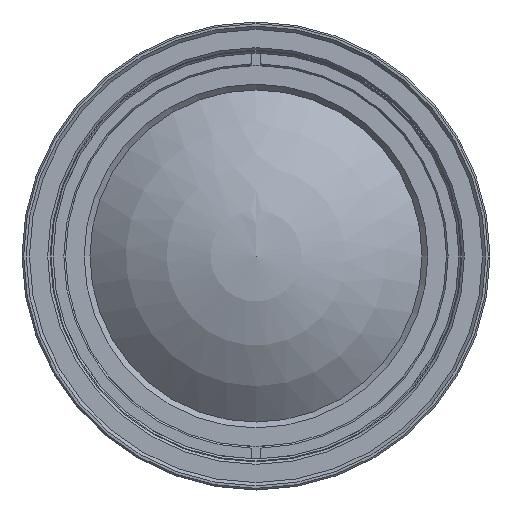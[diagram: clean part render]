
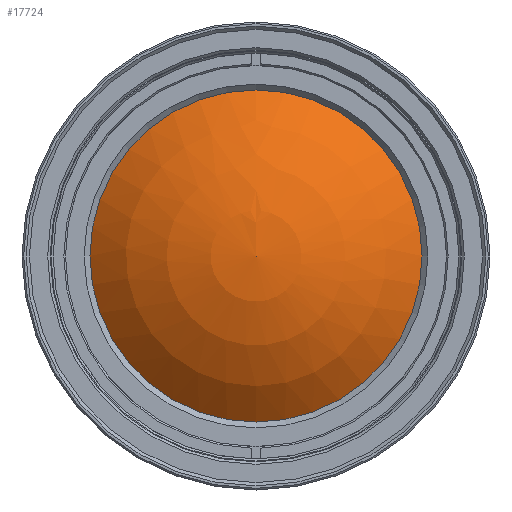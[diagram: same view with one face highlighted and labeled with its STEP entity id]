
A CAD part, front view. The second image highlights one B-rep face of the part: STEP entity #17724.
In plain terms, the highlighted spherical face has radius 29.46 mm.
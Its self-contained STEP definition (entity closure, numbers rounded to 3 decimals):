
#4529=ORIENTED_EDGE('',*,*,#6918,.F.);
#6918=EDGE_CURVE('',#8324,#8324,#9188,.T.);
#8324=VERTEX_POINT('',#25942);
#9188=CIRCLE('',#18862,20.093);
#10063=EDGE_LOOP('',(#4529));
#11207=FACE_BOUND('',#10063,.T.);
#11721=SPHERICAL_SURFACE('',#18863,29.46);
#17724=ADVANCED_FACE('',(#11207),#11721,.T.);
#18862=AXIS2_PLACEMENT_3D('',#25941,#21444,#21445);
#18863=AXIS2_PLACEMENT_3D('',#25943,#21446,#21447);
#21444=DIRECTION('',(0.,1.,0.));
#21445=DIRECTION('',(0.,0.,1.));
#21446=DIRECTION('',(0.,-1.,0.));
#21447=DIRECTION('',(0.,0.,1.));
#25941=CARTESIAN_POINT('',(0.,-75.578,0.));
#25942=CARTESIAN_POINT('',(0.,-75.578,20.093));
#25943=CARTESIAN_POINT('',(0.,-54.034,0.));
